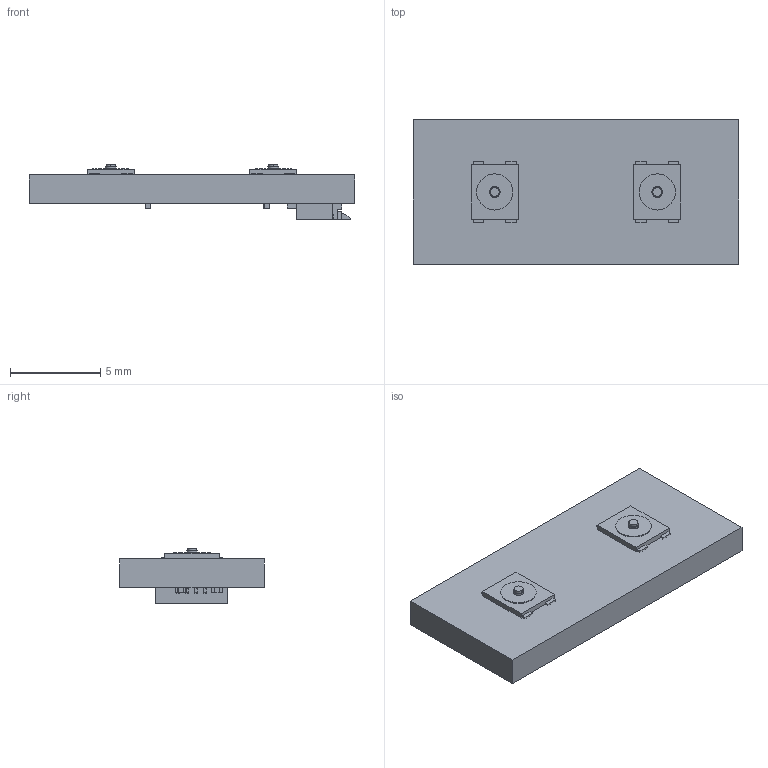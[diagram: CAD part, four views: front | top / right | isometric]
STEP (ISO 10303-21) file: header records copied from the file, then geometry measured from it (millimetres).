
FILE_DESCRIPTION(('Open CASCADE Model'),'2;1');
FILE_NAME('Open CASCADE Shape Model','2023-06-20T05:09:07',('Author'),( 'Open CASCADE'),'Open CASCADE STEP processor 6.8','Open CASCADE 6.8' ,'Unknown');
FILE_SCHEMA(('AUTOMOTIVE_DESIGN { 1 0 10303 214 1 1 1 1 }'));
Length unit declared in the file: millimetre
Products named in the file (12): PCB; Board; Open CASCADE STEP translator 6.8 2.1.1; SW2; 2009031909_G-Switch-GT-TC025D-H0065-L1_C778132; SW1; J1; FH19C-4S-0.5SH-10---3DModel-STEP-1; FH19C-4S-0.5SH_\X\8A\ÜH\X\97\Ü*; C2; User_Library-SMD_Ceramic_Capacitors_0201_(0603)_AB; C1
Assembly tree (13 placements, depth 4):
  PCB
    Board
      Open CASCADE STEP translator 6.8 2.1.1
    SW2
      2009031909_G-Switch-GT-TC025D-H0065-L1_C778132
    SW1
      2009031909_G-Switch-GT-TC025D-H0065-L1_C778132
    J1
      FH19C-4S-0.5SH-10---3DModel-STEP-1
        FH19C-4S-0.5SH_\X\8A\ÜH\X\97\Ü*
    C2
      User_Library-SMD_Ceramic_Capacitors_0201_(0603)_AB
    C1
      User_Library-SMD_Ceramic_Capacitors_0201_(0603)_AB
Bounding box: 18 x 8 x 3.1 mm (x, y, z)
Volume: 243 mm3; surface area: 470.4 mm2
Topology: 10 solids, 10 shells, 375 faces, 981 edges, 604 vertices
Faces by surface type: plane 241, cylinder 94, bspline 40
Entity records: 9133 total; most frequent: CARTESIAN_POINT 1825, ORIENTED_EDGE 1470, DIRECTION 1389, EDGE_CURVE 735, LINE 581, VECTOR 581, VERTEX_POINT 472, AXIS2_PLACEMENT_3D 404
